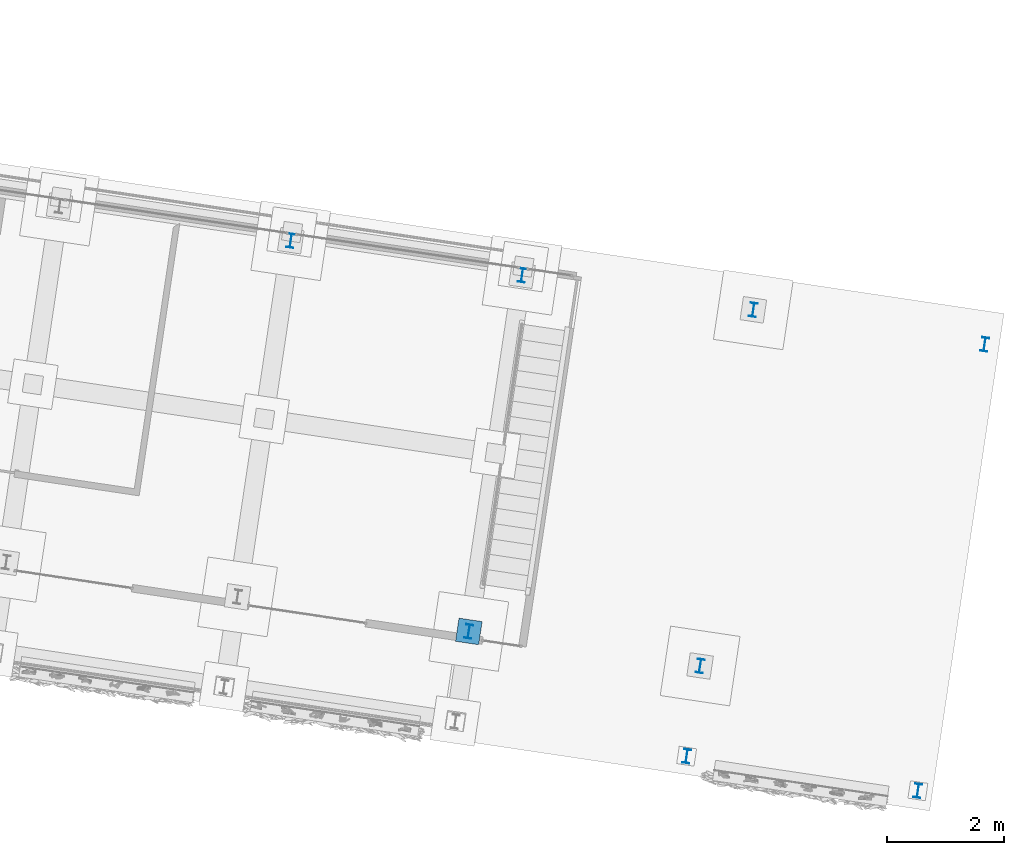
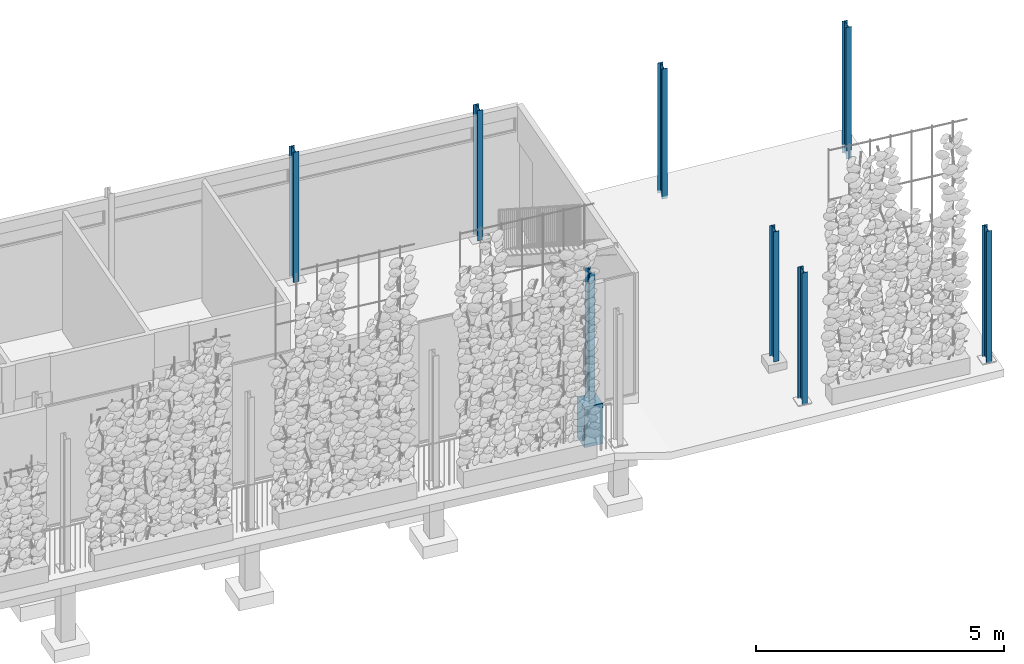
# One storey, part 5 of 142: 9 columns.
"""IFC4 building model written with IfcOpenShell, lengths in metres."""

from ifc_helpers import new_model, si_unit, direction, frame, origin_with_axes, place, context, subcontext, project, spatial, polyline, i_section, outline, extrude, material, material_profile, profile_set, profile_usage, type_object, element, save


model = new_model("IFC4")

# Units and contexts
model_context = context("Model", 3, precision=1e-05, world=origin_with_axes(), true_north=direction((0.0, 1.0)))
body_context = subcontext(model_context, "Body", "Model", "MODEL_VIEW")
ifc_project = project(units=[si_unit("AREAUNIT", "SQUARE_METRE"), si_unit("VOLUMEUNIT", "CUBIC_METRE"), si_unit("LENGTHUNIT", "METRE")], contexts=[model_context])

# Site, building, storey
site_placement = place(None, origin_with_axes())
site = spatial("IfcSite", under=ifc_project, at=site_placement, Name="Lares · Rua das Mercês · artigo 4771")
building_placement = place(site_placement, frame((15.0, 9.7, 14.65), z_axis=(0.0, 0.0, 1.0), x_axis=(0.989015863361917, -0.147809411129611, 0.0)))
building = spatial("IfcBuilding", under=site, at=building_placement, Name="Casa Sobreposta")
storey_placement = place(building_placement, origin_with_axes())
storey = spatial("IfcBuildingStorey", under=building, at=storey_placement, Name="00 · Habitação e estacionamento", Elevation=14.65)

# Columns
ifc_material_1 = material(Name="Aço pintado / Stahl lackiert", Category="steel")
ifc_material_profile = material_profile(ifc_material_1, i_section(OverallWidth=0.12, OverallDepth=0.24, WebThickness=0.0062, FlangeThickness=0.0098))
ifc_profile_set = profile_set([ifc_material_profile], Name="IPE240")
ifc_profile_usage_1 = profile_usage(ifc_profile_set)
column_type = type_object("IfcColumnType", Name="IPE240 / steel", PredefinedType="NOTDEFINED", material=ifc_profile_set)
column_1_placement = place(storey_placement, frame((20.0, 6.28, 0.0), z_axis=(0.0, 0.0, 1.0), x_axis=(1.0, 0.0, 0.0)))
element("IfcColumn", 1, at=column_1_placement, inside=storey, type_object=column_type, material=ifc_profile_usage_1, Name="Pilar 6B · IPE240", context=body_context, shape_type="SweptSolid", body=[
    extrude(i_section(OverallWidth=0.12, OverallDepth=0.24, WebThickness=0.0062, FlangeThickness=0.0098), origin_with_axes(), (0.0, 0.0, 1.0), 3.208),
])
ifc_profile_usage_2 = profile_usage(ifc_profile_set)
column_2_placement = place(storey_placement, frame((24.0, 0.12, 0.0), z_axis=(0.0, 0.0, 1.0), x_axis=(1.0, 0.0, 0.0)))
element("IfcColumn", 2, at=column_2_placement, inside=storey, type_object=column_type, material=ifc_profile_usage_2, Name="Pilar 7A · IPE240", context=body_context, shape_type="SweptSolid", body=[
    extrude(i_section(OverallWidth=0.12, OverallDepth=0.24, WebThickness=0.0062, FlangeThickness=0.0098), origin_with_axes(), (0.0, 0.0, 1.0), 3.208),
])
ifc_profile_usage_3 = profile_usage(ifc_profile_set)
column_3_placement = place(storey_placement, frame((24.0, 6.28, 0.0), z_axis=(0.0, 0.0, 1.0), x_axis=(1.0, 0.0, 0.0)))
element("IfcColumn", 3, at=column_3_placement, inside=storey, type_object=column_type, material=ifc_profile_usage_3, Name="Pilar 7B · IPE240", context=body_context, shape_type="SweptSolid", body=[
    extrude(i_section(OverallWidth=0.12, OverallDepth=0.24, WebThickness=0.0062, FlangeThickness=0.0098), origin_with_axes(), (0.0, 0.0, 1.0), 3.208),
])
ifc_profile_usage_4 = profile_usage(ifc_profile_set)
column_4_placement = place(storey_placement, frame((28.0, 0.12, 0.0), z_axis=(0.0, 0.0, 1.0), x_axis=(1.0, 0.0, 0.0)))
element("IfcColumn", 4, at=column_4_placement, inside=storey, type_object=column_type, material=ifc_profile_usage_4, Name="Pilar 8A · IPE240", context=body_context, shape_type="SweptSolid", body=[
    extrude(i_section(OverallWidth=0.12, OverallDepth=0.24, WebThickness=0.0062, FlangeThickness=0.0098), origin_with_axes(), (0.0, 0.0, 1.0), 3.208),
])
ifc_profile_usage_5 = profile_usage(ifc_profile_set)
column_5_placement = place(storey_placement, frame((28.0, 6.28, 0.0), z_axis=(0.0, 0.0, 1.0), x_axis=(1.0, 0.0, 0.0)))
element("IfcColumn", 5, at=column_5_placement, inside=storey, type_object=column_type, material=ifc_profile_usage_5, Name="Pilar 8B · IPE240", context=body_context, shape_type="SweptSolid", body=[
    extrude(i_section(OverallWidth=0.12, OverallDepth=0.24, WebThickness=0.0062, FlangeThickness=0.0098), origin_with_axes(), (0.0, 0.0, 1.0), 3.208),
])
ifc_profile_usage_6 = profile_usage(ifc_profile_set)
column_6_placement = place(storey_placement, frame((28.0, -1.44, -0.04), z_axis=(0.0, 0.0, 1.0), x_axis=(1.0, 0.0, 0.0)))
element("IfcColumn", 6, at=column_6_placement, inside=storey, type_object=column_type, material=ifc_profile_usage_6, Name="Projeção estufa · pilar sul ao pódio", context=body_context, shape_type="SweptSolid", body=[
    extrude(i_section(OverallWidth=0.12, OverallDepth=0.24, WebThickness=0.0062, FlangeThickness=0.0098), origin_with_axes(), (0.0, 0.0, 1.0), 3.248),
])
ifc_profile_usage_7 = profile_usage(ifc_profile_set)
column_7_placement = place(storey_placement, frame((32.0, -1.44, -0.04), z_axis=(0.0, 0.0, 1.0), x_axis=(1.0, 0.0, 0.0)))
element("IfcColumn", 7, at=column_7_placement, inside=storey, type_object=column_type, material=ifc_profile_usage_7, Name="Projeção estufa · pilar sul ao pódio", context=body_context, shape_type="SweptSolid", body=[
    extrude(i_section(OverallWidth=0.12, OverallDepth=0.24, WebThickness=0.0062, FlangeThickness=0.0098), origin_with_axes(), (0.0, 0.0, 1.0), 3.248),
])
ifc_profile_usage_8 = profile_usage(ifc_profile_set)
column_8_placement = place(storey_placement, frame((32.0, 6.28, -0.04), z_axis=(0.0, 0.0, 1.0), x_axis=(1.0, 0.0, 0.0)))
element("IfcColumn", 8, at=column_8_placement, inside=storey, type_object=column_type, material=ifc_profile_usage_8, Name="Projeção estufa · pilar nascente norte", context=body_context, shape_type="SweptSolid", body=[
    extrude(i_section(OverallWidth=0.12, OverallDepth=0.24, WebThickness=0.0062, FlangeThickness=0.0098), origin_with_axes(), (0.0, 0.0, 1.0), 3.248),
])
ifc_material_2 = material(Name="Betão armado / Stahlbeton", Category="concrete")
column_9_placement = place(storey_placement, frame((0.0, 0.0, -1.0), z_axis=(0.0, 0.0, 1.0), x_axis=(1.0, 0.0, 0.0)))
element("IfcColumn", 9, at=column_9_placement, inside=storey, material=ifc_material_2, Name="Pedestal 7A · betão 400 x 400", context=body_context, shape_type="SweptSolid", body=[
    extrude(outline(polyline([(24.2, -0.08), (24.2, 0.32), (23.8, 0.32), (23.8, -0.08), (24.2, -0.08)])), origin_with_axes(), (0.0, 0.0, 1.0), 1.0),
])

save(model, "model.ifc")
